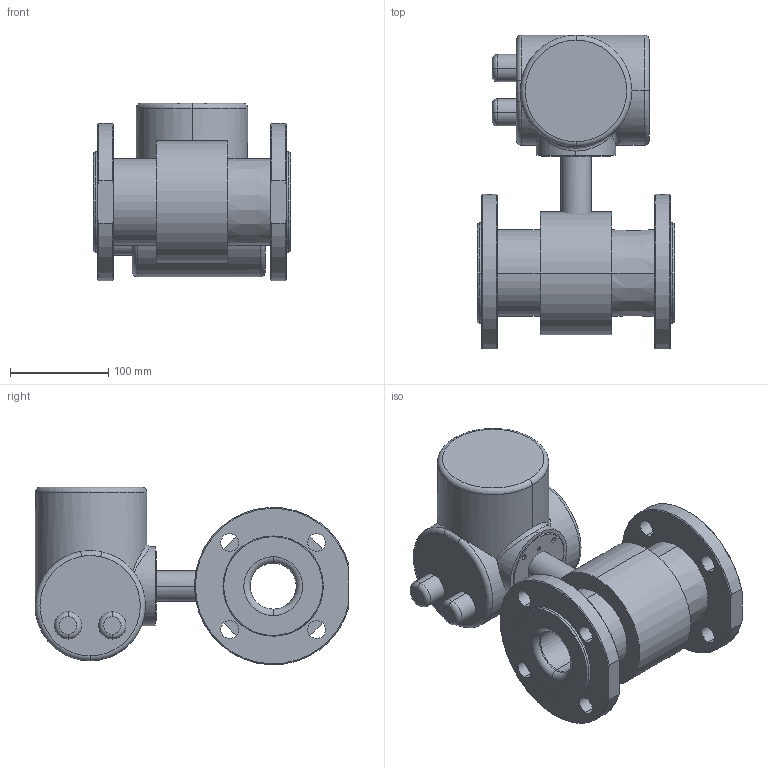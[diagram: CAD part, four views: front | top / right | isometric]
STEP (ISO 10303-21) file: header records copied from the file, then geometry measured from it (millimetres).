
FILE_DESCRIPTION (( 'STEP AP203' ), '1' );
FILE_NAME ('Ðàñõîäîìåð-ñ÷åò÷èê ýëåêòðîìàãíèòíûé ÏÈÒÅÐÔËÎÓ Ò3 - 50 Ex.STEP', '2022-06-24T08:26:53', ( '' ), ( '' ), 'SwSTEP 2.0', 'SolidWorks 2016', '' );
FILE_SCHEMA (( 'CONFIG_CONTROL_DESIGN' ));
Length unit declared in the file: millimetre
Products named in the file (1): Ðàñõîäîìåð-ñ÷åò÷èê ýëåêòðîìàãíèòíûé ÏÈÒÅÐÔËÎÓ Ò3 - 50 Ex
Bounding box: 200.6 x 319 x 180.29 mm (x, y, z)
Volume: 3906704.2 mm3; surface area: 308449.8 mm2
Topology: 5 solids, 5 shells, 229 faces, 554 edges, 346 vertices
Faces by surface type: cylinder 96, cone 66, plane 44, torus 18, bspline 4, sphere 1
Entity records: 9434 total; most frequent: CARTESIAN_POINT 3904, DIRECTION 1201, ORIENTED_EDGE 1100, EDGE_CURVE 550, AXIS2_PLACEMENT_3D 515, VERTEX_POINT 346, CIRCLE 289, EDGE_LOOP 276
